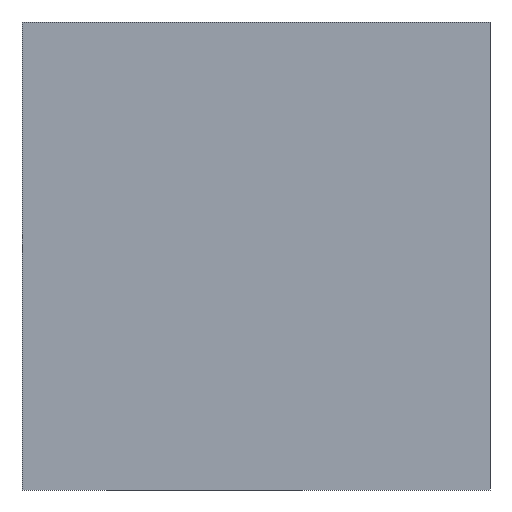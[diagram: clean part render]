
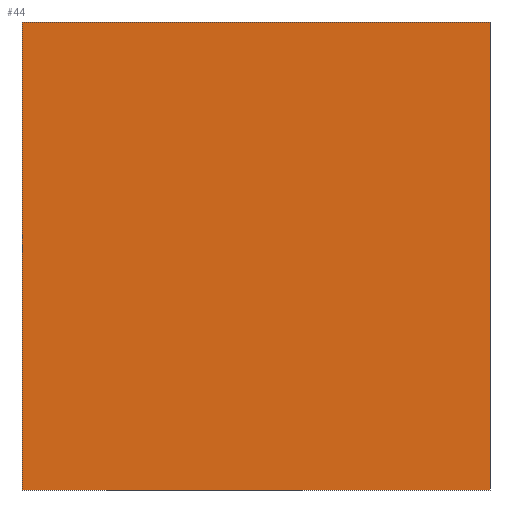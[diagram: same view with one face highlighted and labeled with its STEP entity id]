
A CAD part, front view. The second image highlights one B-rep face of the part: STEP entity #44.
In plain terms, the highlighted planar face has unit normal (0, -1, 0).
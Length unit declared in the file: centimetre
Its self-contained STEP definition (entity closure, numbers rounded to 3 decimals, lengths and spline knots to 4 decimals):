
#24 = ORIENTED_EDGE ( 'NONE', *, *, #386, .F. ) ;
#42 = ORIENTED_EDGE ( 'NONE', *, *, #278, .F. ) ;
#44 = ADVANCED_FACE ( 'NONE', ( #223 ), #51, .F. ) ;
#47 = DIRECTION ( 'NONE',  ( 0., 1., 0. ) ) ;
#51 = PLANE ( 'NONE',  #81 ) ;
#81 = AXIS2_PLACEMENT_3D ( 'NONE', #219, #47, #149 ) ;
#85 = VERTEX_POINT ( 'NONE', #173 ) ;
#90 = CARTESIAN_POINT ( 'NONE',  ( 0., 0., 1000. ) ) ;
#96 = LINE ( 'NONE', #417, #133 ) ;
#127 = CARTESIAN_POINT ( 'NONE',  ( 1000., 0., 1000. ) ) ;
#133 = VECTOR ( 'NONE', #421, 100. ) ;
#149 = DIRECTION ( 'NONE',  ( 0., 0., 1. ) ) ;
#155 = LINE ( 'NONE', #127, #253 ) ;
#158 = LINE ( 'NONE', #291, #314 ) ;
#162 = CARTESIAN_POINT ( 'NONE',  ( 1000., 0., 1000. ) ) ;
#173 = CARTESIAN_POINT ( 'NONE',  ( 0., 0., 0. ) ) ;
#201 = LINE ( 'NONE', #90, #232 ) ;
#205 = EDGE_LOOP ( 'NONE', ( #312, #42, #24, #236 ) ) ;
#219 = CARTESIAN_POINT ( 'NONE',  ( 0., 0., 1000. ) ) ;
#220 = EDGE_CURVE ( 'NONE', #387, #85, #201, .T. ) ;
#223 = FACE_OUTER_BOUND ( 'NONE', #205, .T. ) ;
#225 = DIRECTION ( 'NONE',  ( 0., 0., -1. ) ) ;
#232 = VECTOR ( 'NONE', #225, 100. ) ;
#236 = ORIENTED_EDGE ( 'NONE', *, *, #220, .T. ) ;
#253 = VECTOR ( 'NONE', #294, 100. ) ;
#262 = DIRECTION ( 'NONE',  ( 1., 0., 0. ) ) ;
#265 = CARTESIAN_POINT ( 'NONE',  ( 1000., 0., 0. ) ) ;
#278 = EDGE_CURVE ( 'NONE', #360, #331, #155, .T. ) ;
#291 = CARTESIAN_POINT ( 'NONE',  ( 0., 0., 1000. ) ) ;
#294 = DIRECTION ( 'NONE',  ( 0., 0., -1. ) ) ;
#312 = ORIENTED_EDGE ( 'NONE', *, *, #370, .T. ) ;
#314 = VECTOR ( 'NONE', #262, 100. ) ;
#331 = VERTEX_POINT ( 'NONE', #265 ) ;
#354 = CARTESIAN_POINT ( 'NONE',  ( 0., 0., 1000. ) ) ;
#360 = VERTEX_POINT ( 'NONE', #162 ) ;
#370 = EDGE_CURVE ( 'NONE', #85, #331, #96, .T. ) ;
#386 = EDGE_CURVE ( 'NONE', #387, #360, #158, .T. ) ;
#387 = VERTEX_POINT ( 'NONE', #354 ) ;
#417 = CARTESIAN_POINT ( 'NONE',  ( 0., 0., 0. ) ) ;
#421 = DIRECTION ( 'NONE',  ( 1., 0., 0. ) ) ;
